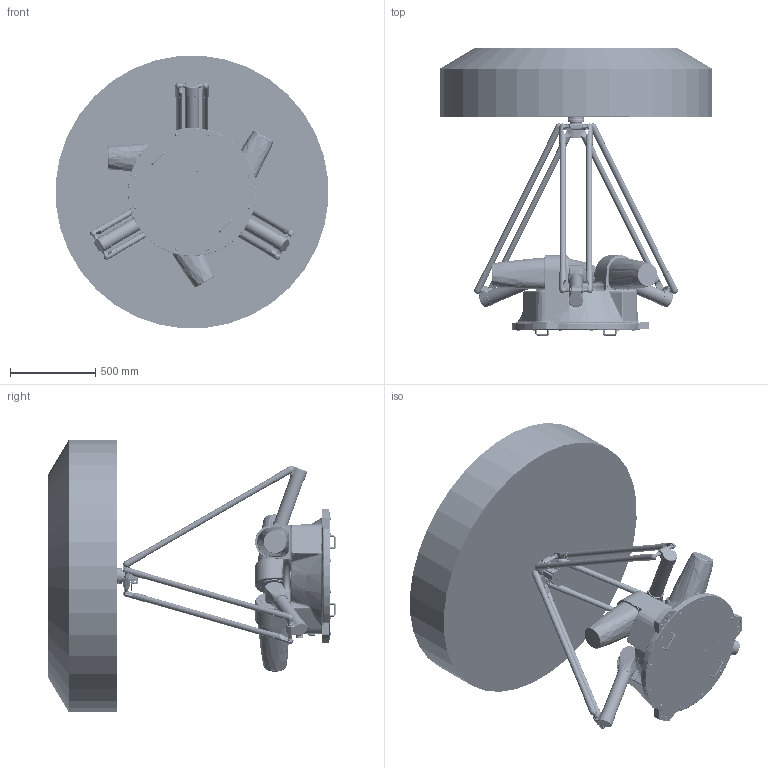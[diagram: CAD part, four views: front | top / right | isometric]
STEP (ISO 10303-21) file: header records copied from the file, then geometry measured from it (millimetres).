
FILE_DESCRIPTION (( 'STEP AP214' ), '1' );
FILE_NAME ('AP25X-1600-1544-T0-V3.0.1.STEP', '2025-02-11T06:17:30', ( '' ), ( '' ), 'SwSTEP 2.0', 'SolidWorks 2017', '' );
FILE_SCHEMA (( 'AUTOMOTIVE_DESIGN' ));
Length unit declared in the file: millimetre
Products named in the file (18): AP25X-1600-1544-T3-V1.0.0; AP25X-1600-1544-T2-V1.0.0; AP25X-1600-1544-T0-V3.0.1; AP25X-1600-1544-T10-V3.0.1; AP25X-1600-1544-T1-V1.0.1; AP25X-1600-1544-T10-V1.0.0
Assembly tree (12 placements, depth 2):
  AP25X-1600-1544-T3-V1.0.0
  AP25X-1600-1544-T3-V1.0.0
  AP25X-1600-1544-T3-V1.0.0
  AP25X-1600-1544-T3-V1.0.0
  AP25X-1600-1544-T0-V3.0.1
    AP25X-1600-1544-T1-V1.0.1
    AP25X-1600-1544-T2-V1.0.0  x3
    AP25X-1600-1544-T3-V1.0.0  x6
    AP25X-1600-1544-T10-V1.0.0
    AP25X-1600-1544-T10-V3.0.1
Bounding box: 1595.41 x 1682 x 1595.41 mm (x, y, z)
Volume: 765366574.8 mm3; surface area: 10595510.9 mm2
Topology: 57 solids, 236 shells, 6980 faces, 18886 edges, 12155 vertices
Faces by surface type: bspline 2346, plane 2162, cylinder 1580, cone 676, torus 129, sphere 87
Full cylindrical faces by diameter (mm): 0.9 x7, 1.5 x4, 1.6 x1, 2 x7, 2.05 x9, 2.1 x2, 2.3 x4, 2.5 x43, 3 x15, 3.3 x26, 3.4 x7, 3.5 x52, 4.2 x25, 4.268 x1, 4.383 x1, 4.5 x16, 4.8 x1, 5 x90, 5.3 x1, 5.5 x20, 6 x6, 6.647 x36, 6.8 x12, 7 x9, 7.3 x2, 8 x36, 9 x42, 9.3 x2, 9.51 x2, 10 x10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
Entity records: 401107 total; most frequent: CARTESIAN_POINT 207502, ORIENTED_EDGE 28345, DIRECTION 20741, EDGE_CURVE 14676, VERTEX_POINT 10134, AXIS2_PLACEMENT_3D 7743, EDGE_LOOP 7709, FACE_OUTER_BOUND 6666
